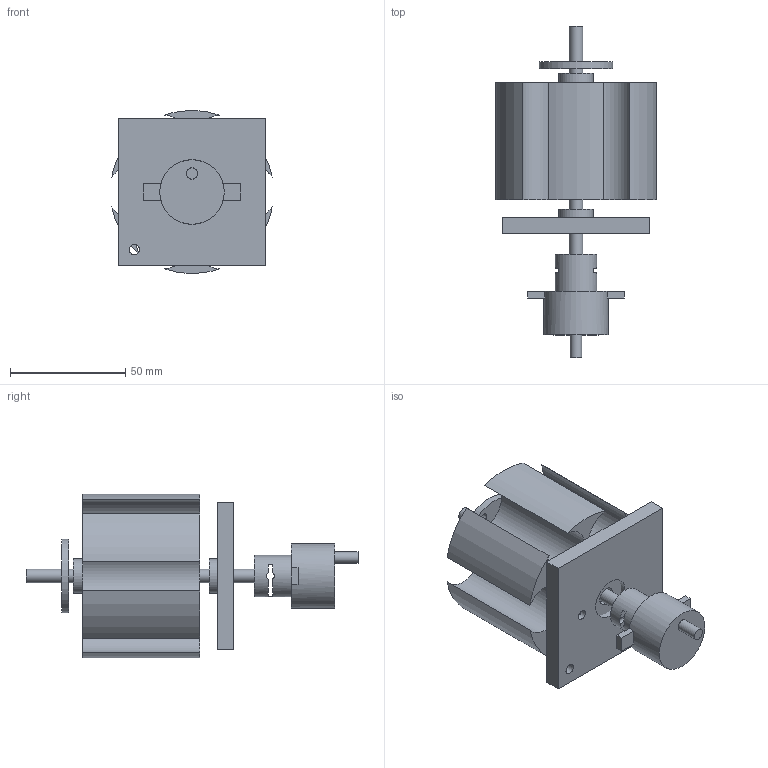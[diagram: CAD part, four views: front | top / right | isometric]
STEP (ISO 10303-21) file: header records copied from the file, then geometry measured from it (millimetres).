
FILE_DESCRIPTION(('Open CASCADE Model'),'2;1');
FILE_NAME('Open CASCADE Shape Model','2026-09-11T00:33:30',('Author'),( 'Open CASCADE'),'Open CASCADE STEP processor 7.9','Open CASCADE 7.9' ,'Unknown');
FILE_SCHEMA(('AUTOMOTIVE_DESIGN { 1 0 10303 214 1 1 1 1 }'));
Length unit declared in the file: millimetre
Products named in the file (10): Open CASCADE STEP translator 7.9 3; Open CASCADE STEP translator 7.9 3.1; Open CASCADE STEP translator 7.9 3.2; Open CASCADE STEP translator 7.9 3.3; Open CASCADE STEP translator 7.9 3.4; Open CASCADE STEP translator 7.9 3.5; Open CASCADE STEP translator 7.9 3.6; Open CASCADE STEP translator 7.9 3.7; Open CASCADE STEP translator 7.9 3.8; Open CASCADE STEP translator 7.9 3.9
Assembly tree (9 placements, depth 2):
  Open CASCADE STEP translator 7.9 3
    Open CASCADE STEP translator 7.9 3.1
    Open CASCADE STEP translator 7.9 3.2
    Open CASCADE STEP translator 7.9 3.3
    Open CASCADE STEP translator 7.9 3.4
    Open CASCADE STEP translator 7.9 3.5
    Open CASCADE STEP translator 7.9 3.6
    Open CASCADE STEP translator 7.9 3.7
    Open CASCADE STEP translator 7.9 3.8
    Open CASCADE STEP translator 7.9 3.9
Bounding box: 69.6 x 144 x 70.8 mm (x, y, z)
Volume: 133284.2 mm3; surface area: 52674 mm2
Topology: 9 solids, 9 shells, 92 faces, 223 edges, 148 vertices
Faces by surface type: plane 39, cylinder 39, bspline 14
Full cylindrical faces by diameter (mm): 3.4 x8, 4.2 x1, 4.5 x1, 5 x1, 5.15 x2, 6 x4, 6.15 x1, 8 x2, 15 x2, 18 x2, 28 x1, 32 x2
Entity records: 7753 total; most frequent: CARTESIAN_POINT 3418, DIRECTION 699, ORIENTED_EDGE 446, PCURVE 446, DEFINITIONAL_REPRESENTATION 446, LINE 334, VECTOR 334, EDGE_CURVE 223
